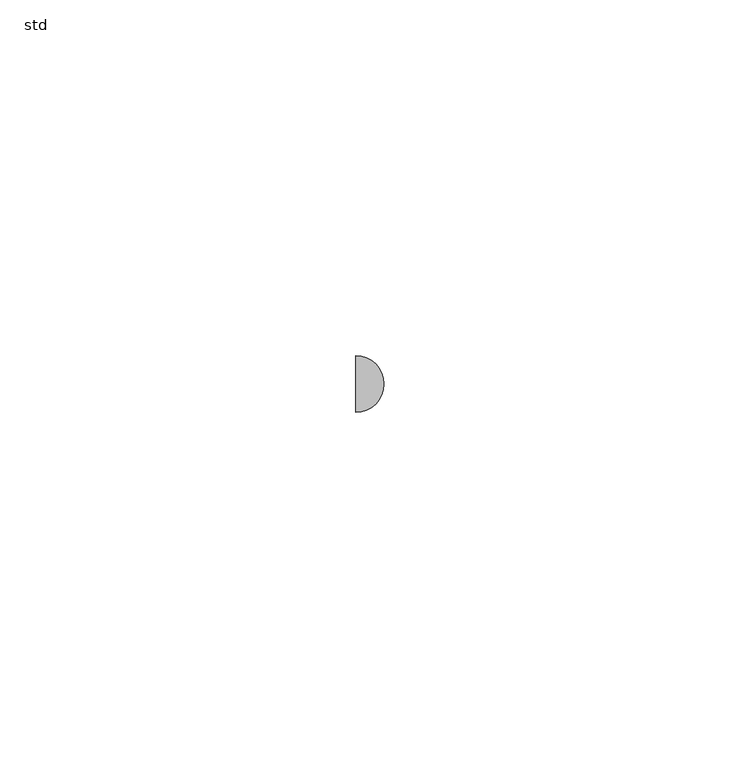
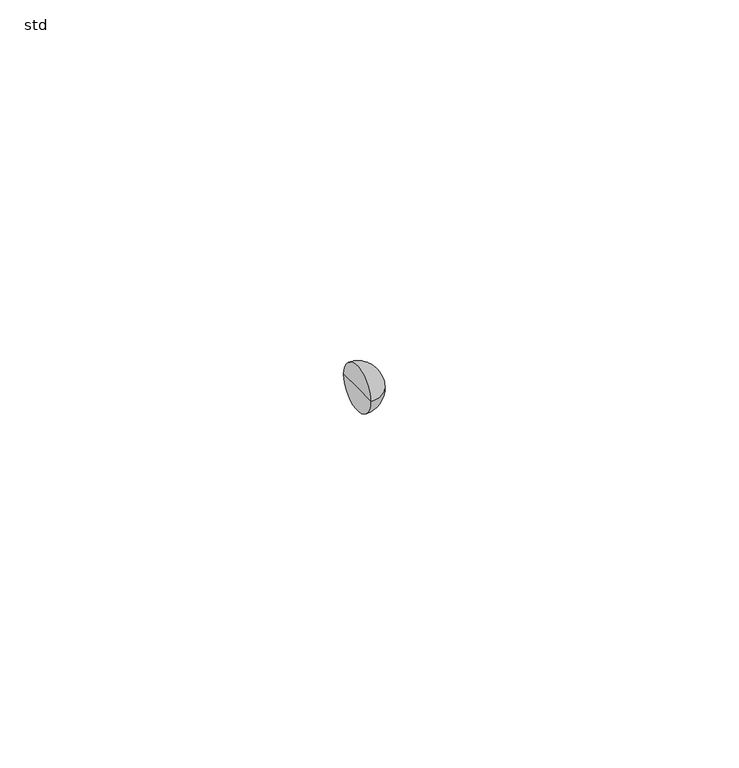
"""IFC4 building model written with IfcOpenShell, lengths in millimetres: pipe fitting geometry, PIF_ST_UN_GM-X double bend_ACO : std."""

from ifc_helpers import new_model, si_unit, point, frame, origin, place, context, project, spatial, circle_curve, ellipse_curve, trimmed, source, transform, mapped, element, save
from ifc_brep_helpers import plane_surface, revolved_surface, advanced_brep


def std_f9de8ce1(model_context):
    return source(origin(), model_context, "Body", "AdvancedBrep", [
        advanced_brep(
        [(-179.7880796, -4.0, 0.0), (-179.7880796, 4.0, 0.0), (-175.7880796, 0.0, 0.0), (-179.7880796, 0.0, 0.0)],
        [
            (0, 1, circle_curve(frame((-179.7880796, 0.0, 0.0), z_axis=(1.0, 0.0, 0.0), x_axis=(0.0, 1.0, 0.0)), 4.0)),
            (1, 2, circle_curve(frame((-179.7880796, 0.0, 0.0), z_axis=(0.0, 0.0, -1.0), x_axis=(-1.0, 0.0, 0.0)), 4.0)),
            (2, 0, circle_curve(frame((-179.7880796, 0.0, 0.0), z_axis=(0.0, 0.0, -1.0), x_axis=(-1.0, 0.0, 0.0)), 4.0)),
            (1, 0, circle_curve(frame((-179.7880796, 0.0, 0.0), z_axis=(1.0, 0.0, 0.0), x_axis=(0.0, 1.0, 0.0)), 4.0)),
            (3, 1),
            (0, 3),
        ],
        [
            revolved_surface(trimmed(ellipse_curve(frame((-179.7880796, 0.0, 0.0), z_axis=(0.0, 0.0, 1.0), x_axis=(-1.0, 0.0, 0.0)), 4.0, 4.0), [point((-175.7880796, 0.0, 0.0))], [point((-179.7880796, 4.0, 0.0))], True, "CARTESIAN"), (-186.779757, 0.0, 0.0), (-1.0, 0.0, 0.0)),
            plane_surface(frame((-179.7880796, 0.0, 0.0), z_axis=(-1.0, 0.0, 0.0), x_axis=(0.0, 1.0, 0.0))),
        ],
        [
            (0, [[1, 2, 3]]),
            (0, [[4, -3, -2]]),
            (1, [[5, -1, 6]]),
            (1, [[-6, -4, -5]]),
        ],
    ),
    ])


if __name__ == "__main__":
    model = new_model("IFC4")
    model_context = context("Model", 3, world=origin())
    ifc_project = project(units=[si_unit("LENGTHUNIT", "METRE", prefix="MILLI")], contexts=[model_context])
    site = spatial("IfcSite", under=ifc_project)
    building = spatial("IfcBuilding", under=site)
    placement = place(None, origin())
    std_shape = std_f9de8ce1(model_context)
    element("IfcPipeFitting", 1, ObjectType="PIF_ST_UN_GM-X double bend_ACO : std", at=placement, inside=building, context=model_context, shape_type="MappedRepresentation", body=[
        mapped(std_shape, transform((0.0, 0.0, 0.0), x_axis=(1.0, 0.0, 0.0), y_axis=(0.0, 1.0, 0.0), z_axis=(0.0, 0.0, 1.0))),
    ])
    save(model, "model.ifc")
